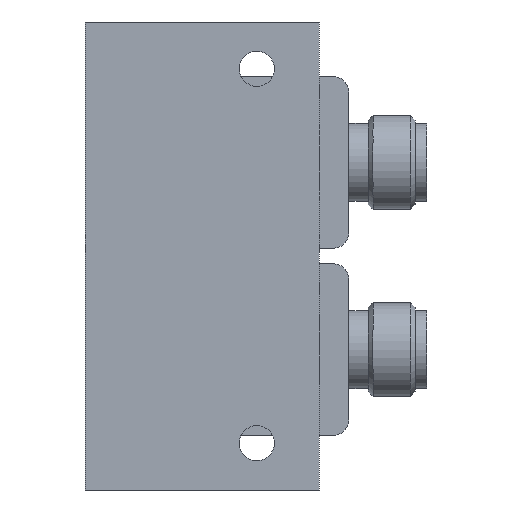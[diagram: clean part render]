
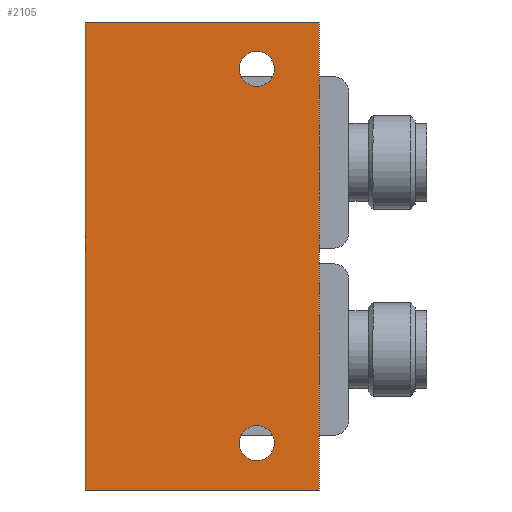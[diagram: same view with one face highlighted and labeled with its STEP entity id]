
A CAD part, left-side view. The second image highlights one B-rep face of the part: STEP entity #2105.
In plain terms, the highlighted planar face has unit normal (-1, 0, 0).
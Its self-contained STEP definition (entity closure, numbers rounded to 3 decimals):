
#923 = EDGE_CURVE ( 'NONE', #12867, #12843, #5165, .T. ) ;
#933 = EDGE_CURVE ( 'NONE', #12821, #12838, #5192, .T. ) ;
#954 = EDGE_CURVE ( 'NONE', #12270, #12270, #5219, .T. ) ;
#957 = EDGE_CURVE ( 'NONE', #12276, #12276, #5222, .T. ) ;
#962 = EDGE_CURVE ( 'NONE', #12821, #12867, #5225, .T. ) ;
#963 = EDGE_CURVE ( 'NONE', #12843, #12838, #5212, .T. ) ;
#1302 = AXIS2_PLACEMENT_3D ( 'NONE', #5994, #6001, #6002 ) ;
#1305 = AXIS2_PLACEMENT_3D ( 'NONE', #6003, #6010, #6011 ) ;
#1805 = AXIS2_PLACEMENT_3D ( 'NONE', #8718, #8719, #8720 ) ;
#2105 = ADVANCED_FACE ( 'NONE', ( #7683, #7689, #7693 ), #8717, .T. ) ;
#2547 = EDGE_LOOP ( 'NONE', ( #9264, #9259, #9246, #9242 ) ) ;
#2550 = EDGE_LOOP ( 'NONE', ( #9331 ) ) ;
#2553 = EDGE_LOOP ( 'NONE', ( #9326 ) ) ;
#4847 = CARTESIAN_POINT ( 'NONE',  ( -10., 15., 0. ) ) ;
#4848 = DIRECTION ( 'NONE',  ( 0., 0., -1. ) ) ;
#4871 = CARTESIAN_POINT ( 'NONE',  ( -10., -15., 0. ) ) ;
#4872 = DIRECTION ( 'NONE',  ( 0., 0., -1. ) ) ;
#5165 = LINE ( 'NONE', #4847, #5175 ) ;
#5175 = VECTOR ( 'NONE', #4848, 1000. ) ;
#5192 = LINE ( 'NONE', #4871, #5193 ) ;
#5193 = VECTOR ( 'NONE', #4872, 1000. ) ;
#5212 = LINE ( 'NONE', #6026, #5229 ) ;
#5219 = CIRCLE ( 'NONE', #1302, 2.25 ) ;
#5222 = CIRCLE ( 'NONE', #1305, 2.25 ) ;
#5225 = LINE ( 'NONE', #6023, #5227 ) ;
#5227 = VECTOR ( 'NONE', #6024, 1000. ) ;
#5229 = VECTOR ( 'NONE', #6027, 1000. ) ;
#5994 = CARTESIAN_POINT ( 'NONE',  ( -10., -7., -54. ) ) ;
#6001 = DIRECTION ( 'NONE',  ( 1., 0., 0. ) ) ;
#6002 = DIRECTION ( 'NONE',  ( 0., 0., -1. ) ) ;
#6003 = CARTESIAN_POINT ( 'NONE',  ( -10., -7., -6. ) ) ;
#6010 = DIRECTION ( 'NONE',  ( 1., 0., 0. ) ) ;
#6011 = DIRECTION ( 'NONE',  ( 0., 0., -1. ) ) ;
#6023 = CARTESIAN_POINT ( 'NONE',  ( -10., -15., 0. ) ) ;
#6024 = DIRECTION ( 'NONE',  ( 0., 1., 0. ) ) ;
#6026 = CARTESIAN_POINT ( 'NONE',  ( -10., -15., -60. ) ) ;
#6027 = DIRECTION ( 'NONE',  ( 0., -1., 0. ) ) ;
#7683 = FACE_OUTER_BOUND ( 'NONE', #2547, .T. ) ;
#7689 = FACE_BOUND ( 'NONE', #2553, .T. ) ;
#7693 = FACE_BOUND ( 'NONE', #2550, .T. ) ;
#8717 = PLANE ( 'NONE',  #1805 ) ;
#8718 = CARTESIAN_POINT ( 'NONE',  ( -10., 15., 0. ) ) ;
#8719 = DIRECTION ( 'NONE',  ( -1., 0., 0. ) ) ;
#8720 = DIRECTION ( 'NONE',  ( 0., 0.707, 0.707 ) ) ;
#9242 = ORIENTED_EDGE ( 'NONE', *, *, #923, .T. ) ;
#9246 = ORIENTED_EDGE ( 'NONE', *, *, #962, .T. ) ;
#9259 = ORIENTED_EDGE ( 'NONE', *, *, #933, .F. ) ;
#9264 = ORIENTED_EDGE ( 'NONE', *, *, #963, .T. ) ;
#9326 = ORIENTED_EDGE ( 'NONE', *, *, #954, .T. ) ;
#9331 = ORIENTED_EDGE ( 'NONE', *, *, #957, .T. ) ;
#11602 = CARTESIAN_POINT ( 'NONE',  ( -10., -15., 0. ) ) ;
#11619 = CARTESIAN_POINT ( 'NONE',  ( -10., -15., -60. ) ) ;
#11624 = CARTESIAN_POINT ( 'NONE',  ( -10., 15., -60. ) ) ;
#11648 = CARTESIAN_POINT ( 'NONE',  ( -10., 15., 0. ) ) ;
#12270 = VERTEX_POINT ( 'NONE', #12271 ) ;
#12271 = CARTESIAN_POINT ( 'NONE',  ( -10., -7., -56.25 ) ) ;
#12276 = VERTEX_POINT ( 'NONE', #12277 ) ;
#12277 = CARTESIAN_POINT ( 'NONE',  ( -10., -7., -8.25 ) ) ;
#12821 = VERTEX_POINT ( 'NONE', #11602 ) ;
#12838 = VERTEX_POINT ( 'NONE', #11619 ) ;
#12843 = VERTEX_POINT ( 'NONE', #11624 ) ;
#12867 = VERTEX_POINT ( 'NONE', #11648 ) ;
